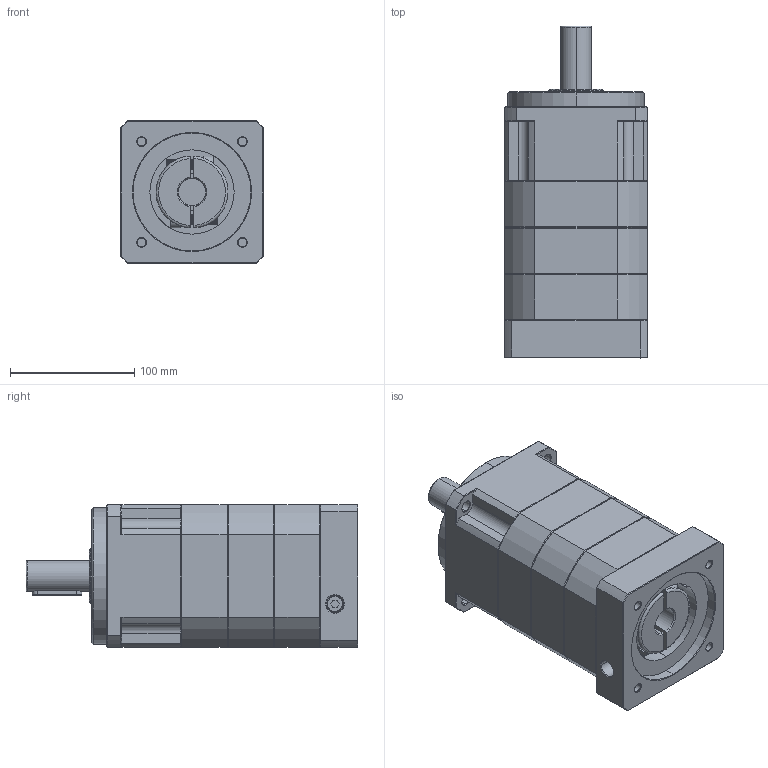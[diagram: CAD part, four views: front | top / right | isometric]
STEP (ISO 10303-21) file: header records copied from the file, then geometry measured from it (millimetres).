
FILE_DESCRIPTION (( 'STEP AP214' ), '1' );
FILE_NAME ('ZPB115-D25-L3-P1-22-95-115-M8.step', '2024-06-11T19:29:25', ( 'Windows 蚚誧' ), ( 'Organization' ), 'SwSTEP 2.0', 'SolidWorks 2016', '' );
FILE_SCHEMA (( 'AUTOMOTIVE_DESIGN' ));
Length unit declared in the file: millimetre
Products named in the file (1): ZPB115-D25-L3-P1-22-95-115-M8
Bounding box: 115 x 267.5 x 115 mm (x, y, z)
Surface area: 158276.8 mm2 (no closed solid volume)
Topology: 0 solids, 29 shells, 1833 faces, 4935 edges, 3161 vertices
Faces by surface type: plane 943, bspline 381, cone 282, cylinder 227
Full cylindrical faces by diameter (mm): 10.2 x1
Entity records: 98829 total; most frequent: CARTESIAN_POINT 49023, ORIENTED_EDGE 9840, DIRECTION 7546, EDGE_CURVE 4929, VECTOR 3184, LINE 3184, VERTEX_POINT 3159, AXIS2_PLACEMENT_3D 2181
